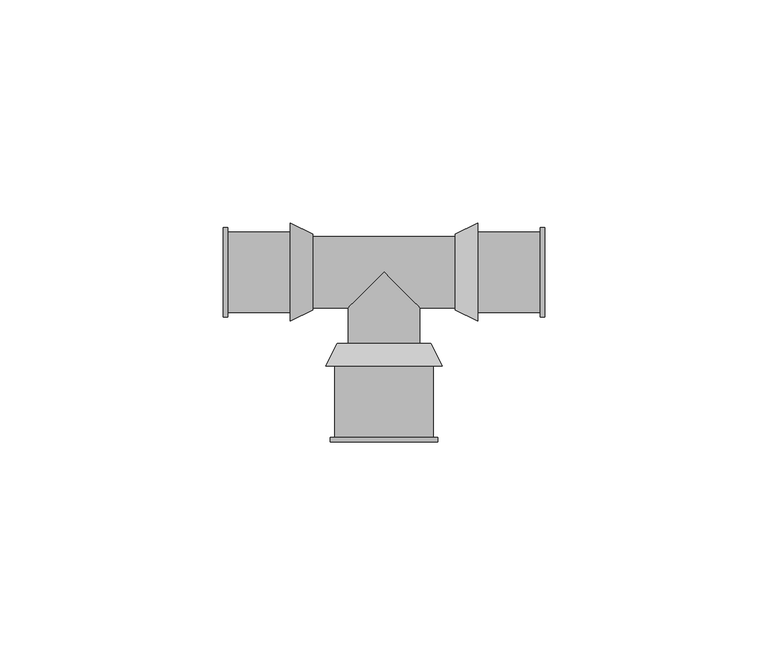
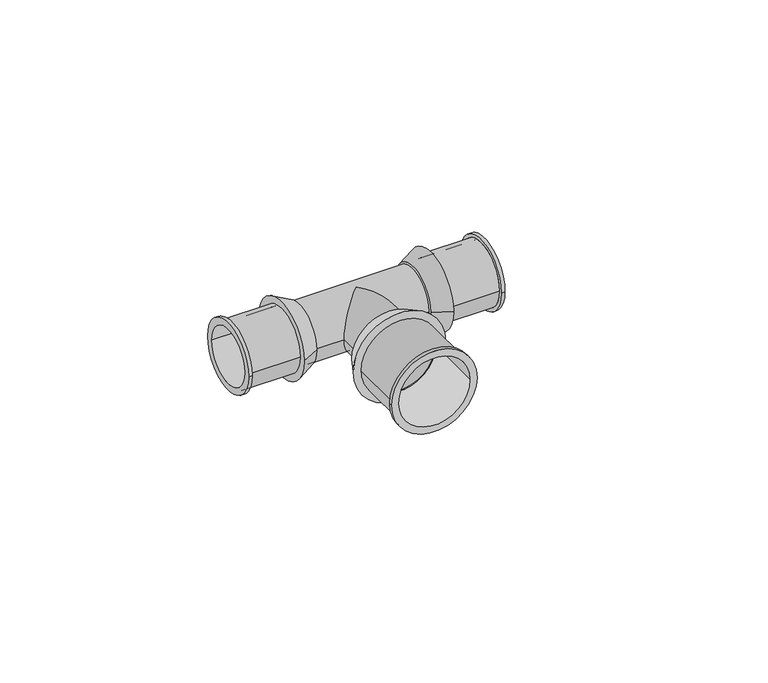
"""IFC4 building model written with IfcOpenShell, lengths in millimetres: pipe fitting geometry, SuperPipe_Tee_SPressPlus : SuperPipe_Tee_SPressPlus."""

from ifc_helpers import new_model, si_unit, point, frame, origin, origin_2d, place, context, project, spatial, polyline, circle_curve, ellipse_curve, trimmed, segment, composite_curve, outline, extrude, source, transform, mapped, element, save
from ifc_brep_helpers import plane_surface, cylinder_surface, revolved_surface, advanced_brep


def pipe_fitting_d58233fc(model_context):
    return source(origin(), model_context, "Body", "SolidModel", [
        advanced_brep(
        [(-36.0, -10.0, 0.0), (-36.0, 10.0, 0.0), (-36.0, -8.0, 0.0), (-36.0, 8.0, 0.0), (-21.0, -9.0, 0.0), (-21.0, 9.0, 0.0), (-21.0, -8.0, 0.0), (-21.0, 8.0, 0.0), (-35.0, -8.0, 0.0), (-35.0, 8.0, 0.0), (-35.0, 9.0, 0.0), (-35.0, -9.0, 0.0), (-35.0, -10.0, 0.0), (-35.0, 10.0, 0.0)],
        [
            (0, 1, circle_curve(frame((-36.0, 0.0, 0.0), z_axis=(-1.0, 0.0, 0.0), x_axis=(0.0, 1.0, 0.0)), 10.0)),
            (1, 0, circle_curve(frame((-36.0, 0.0, 0.0), z_axis=(-1.0, 0.0, 0.0), x_axis=(0.0, 1.0, 0.0)), 10.0)),
            (2, 3, circle_curve(frame((-36.0, 0.0, 0.0), z_axis=(1.0, 0.0, 0.0), x_axis=(0.0, 1.0, 0.0)), 8.0)),
            (3, 2, circle_curve(frame((-36.0, 0.0, 0.0), z_axis=(1.0, 0.0, 0.0), x_axis=(0.0, 1.0, 0.0)), 8.0)),
            (4, 5, circle_curve(frame((-21.0, 0.0, 0.0), z_axis=(1.0, 0.0, 0.0), x_axis=(0.0, 1.0, 0.0)), 9.0)),
            (5, 4, circle_curve(frame((-21.0, 0.0, 0.0), z_axis=(1.0, 0.0, 0.0), x_axis=(0.0, 1.0, 0.0)), 9.0)),
            (6, 7, circle_curve(frame((-21.0, 0.0, 0.0), z_axis=(-1.0, 0.0, 0.0), x_axis=(0.0, 1.0, 0.0)), 8.0)),
            (7, 6, circle_curve(frame((-21.0, 0.0, 0.0), z_axis=(-1.0, 0.0, 0.0), x_axis=(0.0, 1.0, 0.0)), 8.0)),
            (2, 8),
            (8, 6),
            (7, 9),
            (9, 3),
            (5, 10),
            (10, 11, circle_curve(frame((-35.0, 0.0, 0.0), z_axis=(1.0, 0.0, 0.0), x_axis=(0.0, 1.0, 0.0)), 9.0)),
            (11, 4),
            (11, 10, circle_curve(frame((-35.0, 0.0, 0.0), z_axis=(1.0, 0.0, 0.0), x_axis=(0.0, 1.0, 0.0)), 9.0)),
            (12, 13, circle_curve(frame((-35.0, 0.0, 0.0), z_axis=(1.0, 0.0, 0.0), x_axis=(0.0, 1.0, 0.0)), 10.0)),
            (13, 12, circle_curve(frame((-35.0, 0.0, 0.0), z_axis=(1.0, 0.0, 0.0), x_axis=(0.0, 1.0, 0.0)), 10.0)),
            (0, 12),
            (13, 1),
        ],
        [
            plane_surface(frame((-36.0, 0.0, 0.0), z_axis=(-1.0, 0.0, 0.0), x_axis=(0.0, 0.0, 1.0))),
            plane_surface(frame((-21.0, 0.0, 0.0), z_axis=(1.0, 0.0, 0.0), x_axis=(0.0, 0.0, 1.0))),
            revolved_surface(polyline([(-21.0, 8.0, 0.0), (-36.0, 8.0, 0.0)]), (-36.0, 0.0, 0.0), (1.0, 0.0, 0.0)),
            cylinder_surface(frame((-36.0, 0.0, 0.0), z_axis=(-1.0, 0.0, 0.0), x_axis=(0.0, 1.0, 0.0)), 9.0),
            plane_surface(frame((-35.0, 0.0, 0.0), z_axis=(1.0, 0.0, 0.0), x_axis=(0.0, 0.0, 1.0))),
            cylinder_surface(frame((-36.0, 0.0, 0.0), z_axis=(-1.0, 0.0, 0.0), x_axis=(0.0, 1.0, 0.0)), 10.0),
        ],
        [
            (0, [[1, 2], [3, 4]]),
            (1, [[5, 6], [7, 8]]),
            (2, [[-3, 9, 10, -8, 11, 12]]),
            (2, [[-4, -12, -11, -7, -10, -9]]),
            (3, [[-6, 13, 14, 15]]),
            (3, [[-5, -15, 16, -13]]),
            (4, [[17, 18], [-14, -16]]),
            (5, [[-1, 19, -18, 20]]),
            (5, [[-2, -20, -17, -19]]),
        ],
    ),
        advanced_brep(
        [(21.0, -9.0, 0.0), (21.0, 9.0, 0.0), (21.0, -8.0, 0.0), (21.0, 8.0, 0.0), (36.0, -10.0, 0.0), (36.0, 10.0, 0.0), (36.0, -8.0, 0.0), (36.0, 8.0, 0.0), (35.0, -9.0, 0.0), (35.0, 9.0, 0.0), (35.0, -8.0, 0.0), (35.0, 8.0, 0.0), (35.0, -10.0, 0.0), (35.0, 10.0, 0.0)],
        [
            (0, 1, circle_curve(frame((21.0, 0.0, 0.0), z_axis=(-1.0, 0.0, 0.0), x_axis=(0.0, 1.0, 0.0)), 9.0)),
            (1, 0, circle_curve(frame((21.0, 0.0, 0.0), z_axis=(-1.0, 0.0, 0.0), x_axis=(0.0, 1.0, 0.0)), 9.0)),
            (2, 3, circle_curve(frame((21.0, 0.0, 0.0), z_axis=(1.0, 0.0, 0.0), x_axis=(0.0, 1.0, 0.0)), 8.0)),
            (3, 2, circle_curve(frame((21.0, 0.0, 0.0), z_axis=(1.0, 0.0, 0.0), x_axis=(0.0, 1.0, 0.0)), 8.0)),
            (4, 5, circle_curve(frame((36.0, 0.0, 0.0), z_axis=(1.0, 0.0, 0.0), x_axis=(0.0, 1.0, 0.0)), 10.0)),
            (5, 4, circle_curve(frame((36.0, 0.0, 0.0), z_axis=(1.0, 0.0, 0.0), x_axis=(0.0, 1.0, 0.0)), 10.0)),
            (6, 7, circle_curve(frame((36.0, 0.0, 0.0), z_axis=(-1.0, 0.0, 0.0), x_axis=(0.0, 1.0, 0.0)), 8.0)),
            (7, 6, circle_curve(frame((36.0, 0.0, 0.0), z_axis=(-1.0, 0.0, 0.0), x_axis=(0.0, 1.0, 0.0)), 8.0)),
            (0, 8),
            (8, 9, circle_curve(frame((35.0, 0.0, 0.0), z_axis=(-1.0, 0.0, 0.0), x_axis=(0.0, 1.0, 0.0)), 9.0)),
            (9, 1),
            (9, 8, circle_curve(frame((35.0, 0.0, 0.0), z_axis=(-1.0, 0.0, 0.0), x_axis=(0.0, 1.0, 0.0)), 9.0)),
            (2, 10),
            (10, 6),
            (7, 11),
            (11, 3),
            (12, 13, circle_curve(frame((35.0, 0.0, 0.0), z_axis=(-1.0, 0.0, 0.0), x_axis=(0.0, 1.0, 0.0)), 10.0)),
            (13, 12, circle_curve(frame((35.0, 0.0, 0.0), z_axis=(-1.0, 0.0, 0.0), x_axis=(0.0, 1.0, 0.0)), 10.0)),
            (12, 4),
            (5, 13),
        ],
        [
            plane_surface(frame((21.0, 0.0, 0.0), z_axis=(-1.0, 0.0, 0.0), x_axis=(0.0, 0.0, 1.0))),
            plane_surface(frame((36.0, 0.0, 0.0), z_axis=(1.0, 0.0, 0.0), x_axis=(0.0, 0.0, 1.0))),
            cylinder_surface(frame((21.0, 0.0, 0.0), z_axis=(-1.0, 0.0, 0.0), x_axis=(0.0, 1.0, 0.0)), 9.0),
            revolved_surface(polyline([(36.0, 8.0, 0.0), (21.0, 8.0, 0.0)]), (21.0, 0.0, 0.0), (1.0, 0.0, 0.0)),
            plane_surface(frame((35.0, 0.0, 0.0), z_axis=(-1.0, 0.0, 0.0), x_axis=(0.0, 0.0, 1.0))),
            cylinder_surface(frame((35.0, 0.0, 0.0), z_axis=(-1.0, 0.0, 0.0), x_axis=(0.0, 1.0, 0.0)), 10.0),
        ],
        [
            (0, [[1, 2], [3, 4]]),
            (1, [[5, 6], [7, 8]]),
            (2, [[-1, 9, 10, 11]]),
            (2, [[-2, -11, 12, -9]]),
            (3, [[-3, 13, 14, -8, 15, 16]]),
            (3, [[-4, -16, -15, -7, -14, -13]]),
            (4, [[17, 18], [-10, -12]]),
            (5, [[-17, 19, -6, 20]]),
            (5, [[-18, -20, -5, -19]]),
        ],
    ),
        advanced_brep(
        [(-13.0, -21.0, 0.0), (13.0, -21.0, 0.0), (-10.0, -21.0, 0.0), (10.0, -21.0, 0.0), (-10.5, -16.0, 0.0), (10.5, -16.0, 0.0), (-10.0, -17.0, 0.0), (10.0, -17.0, 0.0)],
        [
            (0, 1, circle_curve(frame((0.0, -21.0, 0.0), z_axis=(0.0, -1.0, 0.0), x_axis=(-1.0, 0.0, 0.0)), 13.0)),
            (1, 0, circle_curve(frame((0.0, -21.0, 0.0), z_axis=(0.0, -1.0, 0.0), x_axis=(1.0, 0.0, 0.0)), 13.0)),
            (2, 3, circle_curve(frame((0.0, -21.0, 0.0), z_axis=(0.0, 1.0, 0.0), x_axis=(1.0, 0.0, 0.0)), 10.0)),
            (3, 2, circle_curve(frame((0.0, -21.0, 0.0), z_axis=(0.0, 1.0, 0.0), x_axis=(1.0, 0.0, 0.0)), 10.0)),
            (4, 5, circle_curve(frame((0.0, -16.0, 0.0), z_axis=(0.0, 1.0, 0.0), x_axis=(1.0, 0.0, 0.0)), 10.5)),
            (5, 4, circle_curve(frame((0.0, -16.0, 0.0), z_axis=(0.0, 1.0, 0.0), x_axis=(-1.0, 0.0, 0.0)), 10.5)),
            (0, 4),
            (5, 1),
            (6, 7, circle_curve(frame((0.0, -17.0, 0.0), z_axis=(0.0, -1.0, 0.0), x_axis=(1.0, 0.0, 0.0)), 10.0)),
            (7, 6, circle_curve(frame((0.0, -17.0, 0.0), z_axis=(0.0, -1.0, 0.0), x_axis=(1.0, 0.0, 0.0)), 10.0)),
            (7, 3),
            (2, 6),
        ],
        [
            plane_surface(frame((0.0, -21.0, 0.0), z_axis=(0.0, -1.0, 0.0), x_axis=(0.0, 0.0, -1.0))),
            plane_surface(frame((0.0, -16.0, 0.0), z_axis=(0.0, 1.0, 0.0), x_axis=(0.0, 0.0, -1.0))),
            revolved_surface(polyline([(10.5, -16.0, 0.0), (13.0, -21.0, 0.0)]), (0.0, 5.0, 0.0), (0.0, -1.0, 0.0)),
            revolved_surface(polyline([(-10.5, -16.0, 0.0), (-13.0, -21.0, 0.0)]), (0.0, 5.0, 0.0), (0.0, -1.0, 0.0)),
            plane_surface(frame((0.0, -17.0, 0.0), z_axis=(0.0, -1.0, 0.0), x_axis=(0.0, 0.0, 1.0))),
            revolved_surface(polyline([(10.0, -17.0, 0.0), (10.0, -21.0, 0.0)]), (0.0, -17.0, 0.0), (0.0, 1.0, 0.0)),
        ],
        [
            (0, [[1, 2], [3, 4]]),
            (1, [[5, 6]]),
            (2, [[-1, 7, -6, 8]]),
            (3, [[-2, -8, -5, -7]]),
            (4, [[9, 10]]),
            (5, [[-10, 11, -3, 12]]),
            (5, [[-9, -12, -4, -11]]),
        ],
    ),
        advanced_brep(
        [(21.0, -11.0, 0.0), (21.0, 11.0, 0.0), (21.0, 8.0, 0.0), (21.0, -8.0, 0.0), (16.0, -8.5, 0.0), (16.0, 8.5, 0.0), (17.0, -8.0, 0.0), (17.0, 8.0, 0.0)],
        [
            (0, 1, circle_curve(frame((21.0, 0.0, 0.0), z_axis=(1.0, 0.0, 0.0), x_axis=(0.0, -1.0, 0.0)), 11.0)),
            (1, 0, circle_curve(frame((21.0, 0.0, 0.0), z_axis=(1.0, 0.0, 0.0), x_axis=(0.0, 1.0, 0.0)), 11.0)),
            (2, 3, circle_curve(frame((21.0, 0.0, 0.0), z_axis=(-1.0, 0.0, 0.0), x_axis=(0.0, 1.0, 0.0)), 8.0)),
            (3, 2, circle_curve(frame((21.0, 0.0, 0.0), z_axis=(-1.0, 0.0, 0.0), x_axis=(0.0, 1.0, 0.0)), 8.0)),
            (4, 5, circle_curve(frame((16.0, 0.0, 0.0), z_axis=(-1.0, 0.0, 0.0), x_axis=(0.0, 1.0, 0.0)), 8.5)),
            (5, 4, circle_curve(frame((16.0, 0.0, 0.0), z_axis=(-1.0, 0.0, 0.0), x_axis=(0.0, -1.0, 0.0)), 8.5)),
            (0, 4),
            (5, 1),
            (6, 7, circle_curve(frame((17.0, 0.0, 0.0), z_axis=(1.0, 0.0, 0.0), x_axis=(0.0, 1.0, 0.0)), 8.0)),
            (7, 6, circle_curve(frame((17.0, 0.0, 0.0), z_axis=(1.0, 0.0, 0.0), x_axis=(0.0, 1.0, 0.0)), 8.0)),
            (6, 3),
            (2, 7),
        ],
        [
            plane_surface(frame((21.0, 0.0, 0.0), z_axis=(1.0, 0.0, 0.0), x_axis=(0.0, 0.0, -1.0))),
            plane_surface(frame((16.0, 0.0, 0.0), z_axis=(-1.0, 0.0, 0.0), x_axis=(0.0, 0.0, -1.0))),
            revolved_surface(polyline([(16.0, 8.5, 0.0), (21.0, 11.0, 0.0)]), (-1.0, 0.0, 0.0), (1.0, 0.0, 0.0)),
            revolved_surface(polyline([(16.0, -8.5, 0.0), (21.0, -11.0, 0.0)]), (-1.0, 0.0, 0.0), (1.0, 0.0, 0.0)),
            plane_surface(frame((17.0, 8.0, 0.0), z_axis=(1.0, 0.0, 0.0), x_axis=(0.0, 0.0, -1.0))),
            revolved_surface(polyline([(21.0, 8.0, 0.0), (17.0, 8.0, 0.0)]), (17.0, 0.0, 0.0), (1.0, 0.0, 0.0)),
        ],
        [
            (0, [[1, 2], [3, 4]]),
            (1, [[5, 6]]),
            (2, [[-1, 7, -6, 8]]),
            (3, [[-2, -8, -5, -7]]),
            (4, [[9, 10]]),
            (5, [[-9, 11, -3, 12]]),
            (5, [[-10, -12, -4, -11]]),
        ],
    ),
        advanced_brep(
        [(-16.0, -8.5, 0.0), (-16.0, 8.5, 0.0), (-21.0, -11.0, 0.0), (-21.0, 11.0, 0.0), (-21.0, -8.0, 0.0), (-21.0, 8.0, 0.0), (-17.0, -8.0, 0.0), (-17.0, 8.0, 0.0)],
        [
            (0, 1, circle_curve(frame((-16.0, 0.0, 0.0), z_axis=(1.0, 0.0, 0.0), x_axis=(0.0, -1.0, 0.0)), 8.5)),
            (1, 0, circle_curve(frame((-16.0, 0.0, 0.0), z_axis=(1.0, 0.0, 0.0), x_axis=(0.0, 1.0, 0.0)), 8.5)),
            (2, 3, circle_curve(frame((-21.0, 0.0, 0.0), z_axis=(-1.0, 0.0, 0.0), x_axis=(0.0, 1.0, 0.0)), 11.0)),
            (3, 2, circle_curve(frame((-21.0, 0.0, 0.0), z_axis=(-1.0, 0.0, 0.0), x_axis=(0.0, -1.0, 0.0)), 11.0)),
            (4, 5, circle_curve(frame((-21.0, 0.0, 0.0), z_axis=(1.0, 0.0, 0.0), x_axis=(0.0, 1.0, 0.0)), 8.0)),
            (5, 4, circle_curve(frame((-21.0, 0.0, 0.0), z_axis=(1.0, 0.0, 0.0), x_axis=(0.0, 1.0, 0.0)), 8.0)),
            (0, 2),
            (3, 1),
            (6, 7, circle_curve(frame((-17.0, 0.0, 0.0), z_axis=(-1.0, 0.0, 0.0), x_axis=(0.0, 1.0, 0.0)), 8.0)),
            (7, 6, circle_curve(frame((-17.0, 0.0, 0.0), z_axis=(-1.0, 0.0, 0.0), x_axis=(0.0, 1.0, 0.0)), 8.0)),
            (7, 5),
            (4, 6),
        ],
        [
            plane_surface(frame((-16.0, 0.0, 0.0), z_axis=(1.0, 0.0, 0.0), x_axis=(0.0, 0.0, -1.0))),
            plane_surface(frame((-21.0, 0.0, 0.0), z_axis=(-1.0, 0.0, 0.0), x_axis=(0.0, 0.0, -1.0))),
            revolved_surface(polyline([(-16.0, -8.5, 0.0), (-21.0, -11.0, 0.0)]), (1.0, 0.0, 0.0), (-1.0, 0.0, 0.0)),
            revolved_surface(polyline([(-16.0, 8.5, 0.0), (-21.0, 11.0, 0.0)]), (1.0, 0.0, 0.0), (-1.0, 0.0, 0.0)),
            plane_surface(frame((-17.0, 8.0, 0.0), z_axis=(-1.0, 0.0, 0.0), x_axis=(0.0, 0.0, 1.0))),
            revolved_surface(polyline([(-17.0, 8.0, 0.0), (-21.0, 8.0, 0.0)]), (-21.0, 0.0, 0.0), (1.0, 0.0, 0.0)),
        ],
        [
            (0, [[1, 2]]),
            (1, [[3, 4], [5, 6]]),
            (2, [[-1, 7, -4, 8]]),
            (3, [[-2, -8, -3, -7]]),
            (4, [[9, 10]]),
            (5, [[-10, 11, -5, 12]]),
            (5, [[-9, -12, -6, -11]]),
        ],
    ),
        advanced_brep(
        [(-8.0, -16.0, 0.0), (8.0, -16.0, 0.0), (8.0, -8.0, 0.0), (0.0, 0.0, 8.0), (-8.0, -8.0, 0.0), (0.0, 0.0, -8.0)],
        [
            (0, 1, circle_curve(frame((0.0, -16.0, 0.0), z_axis=(0.0, -1.0, 0.0), x_axis=(1.0, 0.0, 0.0)), 8.0)),
            (1, 0, circle_curve(frame((0.0, -16.0, 0.0), z_axis=(0.0, -1.0, 0.0), x_axis=(1.0, 0.0, 0.0)), 8.0)),
            (1, 2),
            (2, 3, ellipse_curve(frame((0.0, 0.0, 0.0), z_axis=(-0.7071067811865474, -0.7071067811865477, 0.0), x_axis=(-0.7071067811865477, 0.7071067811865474, 0.0)), 11.3137085, 8.0)),
            (3, 4, ellipse_curve(frame((0.0, 0.0, 0.0), z_axis=(0.7071067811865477, -0.7071067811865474, 0.0), x_axis=(0.7071067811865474, 0.7071067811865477, 0.0)), 11.3137085, 8.0)),
            (4, 0),
            (4, 5, ellipse_curve(frame((0.0, 0.0, 0.0), z_axis=(0.7071067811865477, -0.7071067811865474, 0.0), x_axis=(0.7071067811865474, 0.7071067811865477, 0.0)), 11.3137085, 8.0)),
            (5, 2, ellipse_curve(frame((0.0, 0.0, 0.0), z_axis=(-0.7071067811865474, -0.7071067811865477, 0.0), x_axis=(-0.7071067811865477, 0.7071067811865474, 0.0)), 11.3137085, 8.0)),
            (2, 4),
        ],
        [
            plane_surface(frame((0.0, -16.0, 0.0), z_axis=(0.0, -1.0, 0.0), x_axis=(0.0, 0.0, 1.0))),
            cylinder_surface(frame((0.0, 0.0, 0.0), z_axis=(0.0, 1.0, 0.0), x_axis=(1.0, 0.0, 0.0)), 8.0),
            revolved_surface(polyline([(-8.00000000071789, 8.0, 0.0), (8.00000000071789, 8.0, 0.0)]), (-92.8358145, 0.0, 0.0), (-1.0, 0.0, 0.0)),
        ],
        [
            (0, [[1, 2]]),
            (1, [[-2, 3, 4, 5, 6]]),
            (1, [[-1, -6, 7, 8, -3]]),
            (2, [[9, -5, -4]]),
            (2, [[-9, -8, -7]]),
        ],
    ),
        advanced_brep(
        [(-11.0, -21.0, 0.0), (11.0, -21.0, 0.0), (-10.0, -21.0, 0.0), (10.0, -21.0, 0.0), (-12.0, -38.0, 0.0), (12.0, -38.0, 0.0), (-10.0, -38.0, 0.0), (10.0, -38.0, 0.0), (-11.0, -37.0, 0.0), (11.0, -37.0, 0.0), (-12.0, -37.0, 0.0), (12.0, -37.0, 0.0)],
        [
            (0, 1, circle_curve(frame((0.0, -21.0, 0.0), z_axis=(0.0, 1.0, 0.0), x_axis=(1.0, 0.0, 0.0)), 11.0)),
            (1, 0, circle_curve(frame((0.0, -21.0, 0.0), z_axis=(0.0, 1.0, 0.0), x_axis=(1.0, 0.0, 0.0)), 11.0)),
            (2, 3, circle_curve(frame((0.0, -21.0, 0.0), z_axis=(0.0, -1.0, 0.0), x_axis=(1.0, 0.0, 0.0)), 10.0)),
            (3, 2, circle_curve(frame((0.0, -21.0, 0.0), z_axis=(0.0, -1.0, 0.0), x_axis=(1.0, 0.0, 0.0)), 10.0)),
            (4, 5, circle_curve(frame((0.0, -38.0, 0.0), z_axis=(0.0, -1.0, 0.0), x_axis=(1.0, 0.0, 0.0)), 12.0)),
            (5, 4, circle_curve(frame((0.0, -38.0, 0.0), z_axis=(0.0, -1.0, 0.0), x_axis=(1.0, 0.0, 0.0)), 12.0)),
            (6, 7, circle_curve(frame((0.0, -38.0, 0.0), z_axis=(0.0, 1.0, 0.0), x_axis=(1.0, 0.0, 0.0)), 10.0)),
            (7, 6, circle_curve(frame((0.0, -38.0, 0.0), z_axis=(0.0, 1.0, 0.0), x_axis=(1.0, 0.0, 0.0)), 10.0)),
            (2, 6),
            (7, 3),
            (0, 8),
            (8, 9, circle_curve(frame((0.0, -37.0, 0.0), z_axis=(0.0, 1.0, 0.0), x_axis=(1.0, 0.0, 0.0)), 11.0)),
            (9, 1),
            (9, 8, circle_curve(frame((0.0, -37.0, 0.0), z_axis=(0.0, 1.0, 0.0), x_axis=(1.0, 0.0, 0.0)), 11.0)),
            (10, 11, circle_curve(frame((0.0, -37.0, 0.0), z_axis=(0.0, 1.0, 0.0), x_axis=(1.0, 0.0, 0.0)), 12.0)),
            (11, 10, circle_curve(frame((0.0, -37.0, 0.0), z_axis=(0.0, 1.0, 0.0), x_axis=(1.0, 0.0, 0.0)), 12.0)),
            (10, 4),
            (5, 11),
        ],
        [
            plane_surface(frame((0.0, -21.0, 0.0), z_axis=(0.0, 1.0, 0.0), x_axis=(0.0, 0.0, 1.0))),
            plane_surface(frame((0.0, -38.0, 0.0), z_axis=(0.0, -1.0, 0.0), x_axis=(0.0, 0.0, 1.0))),
            revolved_surface(polyline([(10.0, -38.0, 0.0), (10.0, -21.0, 0.0)]), (0.0, -21.0, 0.0), (0.0, -1.0, 0.0)),
            cylinder_surface(frame((0.0, -21.0, 0.0), z_axis=(0.0, 1.0, 0.0), x_axis=(1.0, 0.0, 0.0)), 11.0),
            plane_surface(frame((0.0, -37.0, 0.0), z_axis=(0.0, 1.0, 0.0), x_axis=(0.0, 0.0, 1.0))),
            cylinder_surface(frame((0.0, -37.0, 0.0), z_axis=(0.0, 1.0, 0.0), x_axis=(1.0, 0.0, 0.0)), 12.0),
        ],
        [
            (0, [[1, 2], [3, 4]]),
            (1, [[5, 6], [7, 8]]),
            (2, [[-3, 9, -8, 10]]),
            (2, [[-4, -10, -7, -9]]),
            (3, [[-1, 11, 12, 13]]),
            (3, [[-2, -13, 14, -11]]),
            (4, [[15, 16], [-12, -14]]),
            (5, [[-15, 17, -6, 18]]),
            (5, [[-16, -18, -5, -17]]),
        ],
    ),
        extrude(outline(composite_curve([segment(trimmed(circle_curve(origin_2d(), 8.0), [point((-8.0, 0.0))], [point((8.0, 0.0))], False, "CARTESIAN"), True, "CONTINUOUS"), segment(trimmed(circle_curve(origin_2d(), 8.0), [point((8.0, 0.0))], [point((-8.0, 0.0))], False, "CARTESIAN"), True, "CONTINUOUS")], self_intersect=False)), frame((-16.0, 0.0, 0.0), z_axis=(1.0, 0.0, 0.0), x_axis=(0.0, 1.0, 0.0)), (0.0, 0.0, 1.0), 32.0),
    ])


if __name__ == "__main__":
    model = new_model("IFC4")
    model_context = context("Model", 3, world=origin())
    ifc_project = project(units=[si_unit("LENGTHUNIT", "METRE", prefix="MILLI")], contexts=[model_context])
    site = spatial("IfcSite", under=ifc_project)
    building = spatial("IfcBuilding", under=site)
    placement = place(None, origin())
    pipe_fitting_shape = pipe_fitting_d58233fc(model_context)
    element("IfcPipeFitting", 1, ObjectType="SuperPipe_Tee_SPressPlus : SuperPipe_Tee_SPressPlus", at=placement, inside=building, context=model_context, shape_type="MappedRepresentation", body=[
        mapped(pipe_fitting_shape, transform((0.0, 0.0, 0.0), x_axis=(1.0, 0.0, 0.0), y_axis=(0.0, 1.0, 0.0), z_axis=(0.0, 0.0, 1.0))),
    ])
    save(model, "model.ifc")
